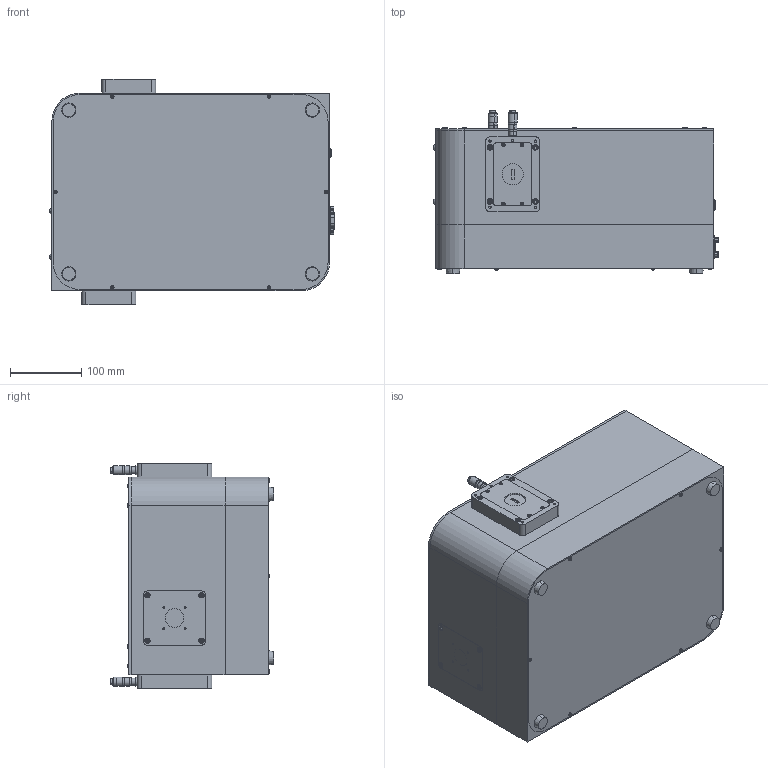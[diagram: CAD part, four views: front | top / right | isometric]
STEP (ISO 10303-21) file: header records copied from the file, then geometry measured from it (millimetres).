
FILE_DESCRIPTION (( 'STEP AP203' ), '1' );
FILE_NAME ('7IMS3021B单光栅扫描单色仪.STEP', '2021-01-12T06:29:08', ( '' ), ( '' ), 'SwSTEP 2.0', 'SolidWorks 2018', '' );
FILE_SCHEMA (( 'CONFIG_CONTROL_DESIGN' ));
Length unit declared in the file: millimetre
Products named in the file (1): 7IMS3021B单光栅扫描单色仪
Bounding box: 400.2 x 229.74 x 316 mm (x, y, z)
Surface area: 555680.5 mm2 (no closed solid volume)
Topology: 0 solids, 105 shells, 767 faces, 2786 edges, 2088 vertices
Faces by surface type: plane 386, cylinder 220, cone 84, sphere 40, torus 37
Entity records: 30297 total; most frequent: CARTESIAN_POINT 5936, DIRECTION 5466, ORIENTED_EDGE 4070, EDGE_CURVE 2776, VERTEX_POINT 2088, AXIS2_PLACEMENT_3D 1962, VECTOR 1542, LINE 1542
